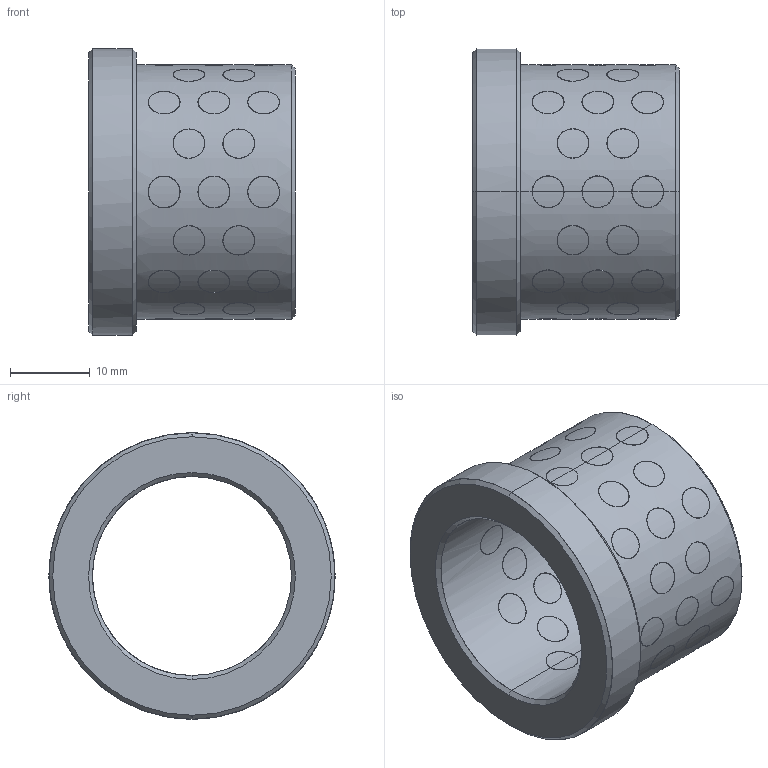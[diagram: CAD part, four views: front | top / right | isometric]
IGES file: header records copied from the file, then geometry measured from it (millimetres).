
Start section: START RECORD GO HERE.
Global section: file name: G4012526.igs; native system: DASSAULT SYSTEMES CATIA V5 R20 - www.3ds.com; preprocessor: CATIA Version 5 Release 20 ; author: r.borello; organization: CFTORINO; date: 20190624.143323; units: millimetre
Bounding box: 26 x 36 x 36 mm (x, y, z)
Surface area: 9132.2 mm2 (no closed solid volume)
Topology: 0 solids, 0 shells, 271 faces, 1180 edges, 1180 vertices
Faces by surface type: revolution 268, plane 3
